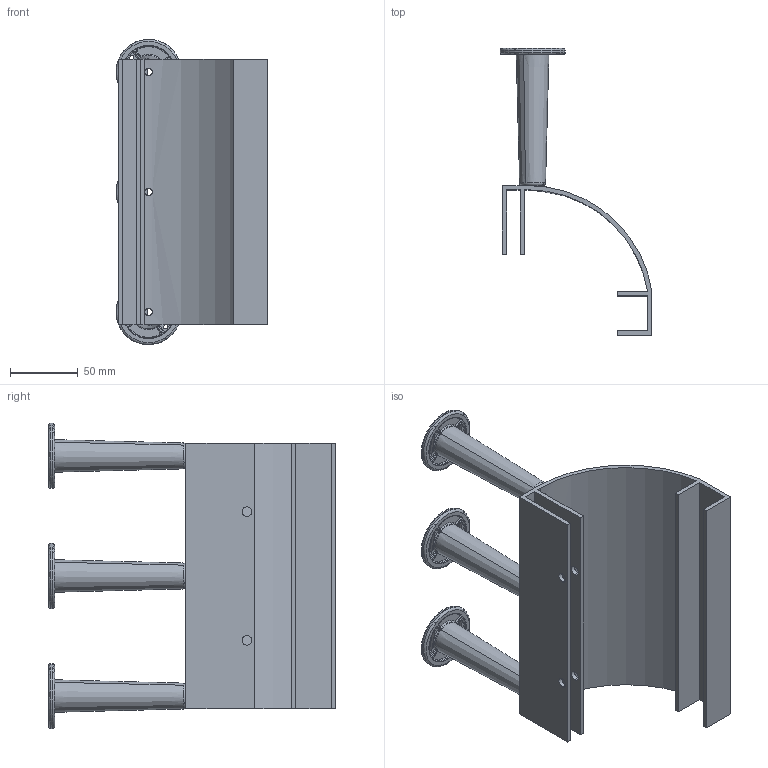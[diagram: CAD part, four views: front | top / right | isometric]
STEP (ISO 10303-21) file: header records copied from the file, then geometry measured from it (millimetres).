
FILE_DESCRIPTION (( 'STEP AP203' ), '1' );
FILE_NAME ('lsrdg.STEP', '2008-02-26T20:23:55', ( '' ), ( '' ), 'SwSTEP 2.0', 'SolidWorks 2007', '' );
FILE_SCHEMA (( 'CONFIG_CONTROL_DESIGN' ));
Length unit declared in the file: inch
Products named in the file (3): Spool_4in; lsrdg; RadiusDrop_Stringer (7.75in)
Assembly tree (4 placements, depth 2):
  lsrdg
    RadiusDrop_Stringer (7.75in)
    Spool_4in  x3
Bounding box: 112.49 x 212.34 x 225.99 mm (x, y, z)
Volume: 253895.3 mm3; surface area: 178589.9 mm2
Topology: 4 solids, 4 shells, 465 faces, 1167 edges, 746 vertices
Faces by surface type: plane 144, cylinder 141, bspline 132, torus 24, cone 24
Entity records: 15744 total; most frequent: CARTESIAN_POINT 11317, ORIENTED_EDGE 926, DIRECTION 720, EDGE_CURVE 463, VERTEX_POINT 298, AXIS2_PLACEMENT_3D 266, EDGE_LOOP 213, VECTOR 188
